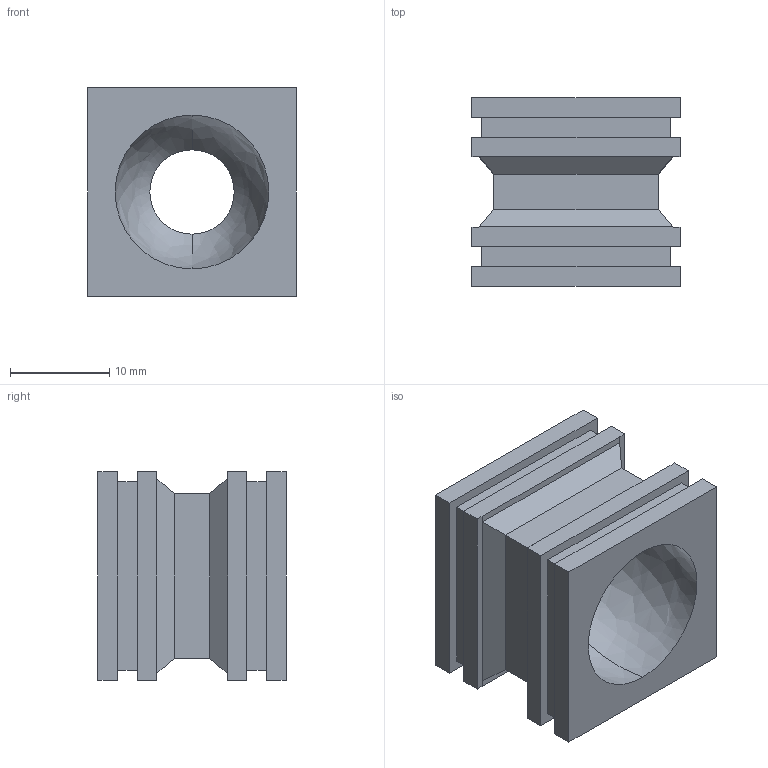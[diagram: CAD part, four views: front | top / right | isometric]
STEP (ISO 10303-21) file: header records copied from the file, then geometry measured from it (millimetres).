
FILE_DESCRIPTION (( 'STEP AP203' ), '1' );
FILE_NAME ('046510 KTP-C.STEP', '2023-03-07T07:11:07', ( '' ), ( '' ), 'SwSTEP 2.0', 'SolidWorks 2016', '' );
FILE_SCHEMA (( 'CONFIG_CONTROL_DESIGN' ));
Length unit declared in the file: millimetre
Products named in the file (1): 046510 KTP-C
Bounding box: 21 x 19 x 21 mm (x, y, z)
Volume: 4470.6 mm3; surface area: 3408.8 mm2
Topology: 1 solids, 1 shells, 54 faces, 134 edges, 86 vertices
Faces by surface type: plane 50, bspline 2, cylinder 2
Entity records: 1669 total; most frequent: CARTESIAN_POINT 311, ORIENTED_EDGE 268, DIRECTION 244, EDGE_CURVE 134, VECTOR 126, LINE 126, VERTEX_POINT 86, EDGE_LOOP 60
